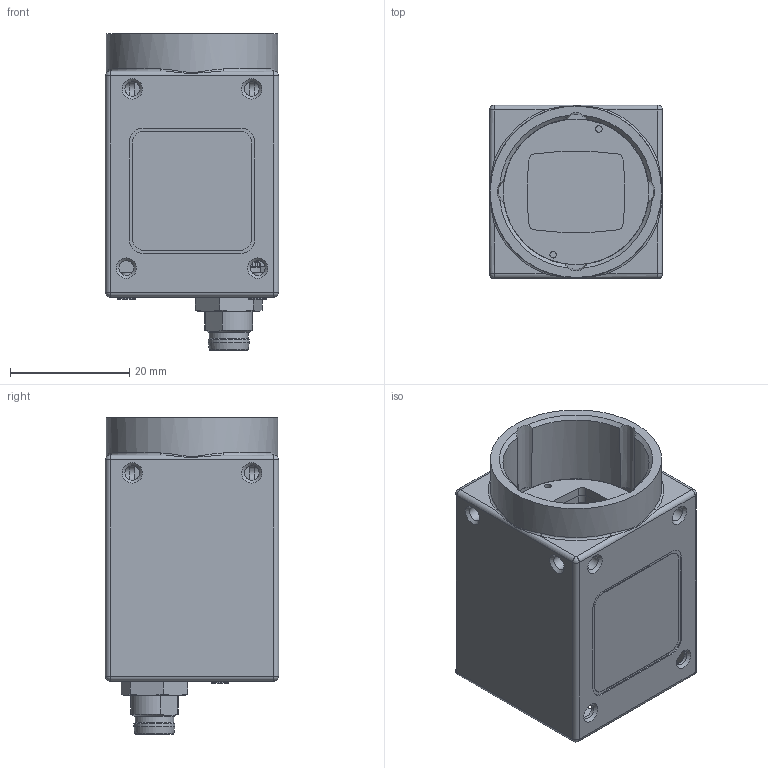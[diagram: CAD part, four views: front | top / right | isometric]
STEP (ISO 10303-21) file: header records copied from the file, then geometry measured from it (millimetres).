
FILE_DESCRIPTION( ( 'Unknown' ), '1' );
FILE_NAME( 'C:/Users/rih/Desktop/11184368_VCXU-201M.R.stp', 'Unknown', ( 'Unknown' ), ( 'Unknown' ), 'PSStep 19.0.9', 'Unknown', ' ' );
FILE_SCHEMA( ( 'AUTOMOTIVE_DESIGN { 1 0 10303 214 1 1 1 1 }' ) );
Length unit declared in the file: millimetre
Products named in the file (5): 11104603
Bounding box: 29 x 29 x 53 mm (x, y, z)
Volume: 10045.8 mm3; surface area: 15567.5 mm2
Topology: 5 solids, 9 shells, 1599 faces, 4177 edges, 2739 vertices
Faces by surface type: plane 969, cylinder 490, cone 73, torus 27, sphere 24, extrusion 8, bspline 8
Full cylindrical faces by diameter (mm): 0.217 x1, 0.6 x16, 0.7 x1, 0.9 x118, 1.075 x2, 1.1 x2, 1.4 x4, 1.567 x2, 1.6 x2, 1.9 x4, 2.459 x10, 3 x4, 6.5 x1, 6.9 x1, 8.4 x1, 9 x1, 9.4 x1, 24.4 x1, 26 x1, 28.7 x1
Entity records: 64042 total; most frequent: CARTESIAN_POINT 10463, DIRECTION 7786, ORIENTED_EDGE 7442, EDGE_CURVE 3721, AXIS2_PLACEMENT_3D 2757, VERTEX_POINT 2550, VECTOR 2272, PRESENTATION_STYLE_ASSIGNMENT 2268
